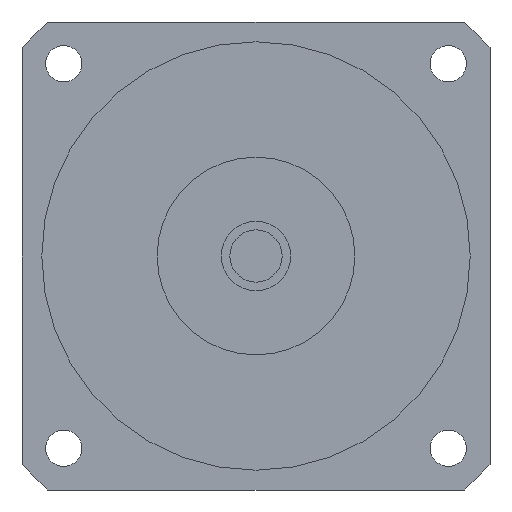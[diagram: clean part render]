
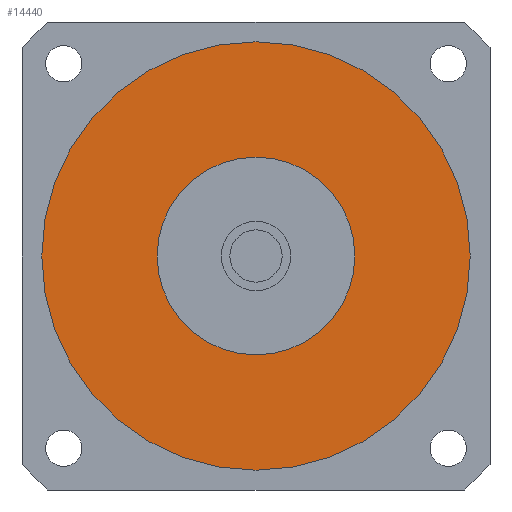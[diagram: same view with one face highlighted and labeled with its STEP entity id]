
A CAD part, left-side view. The second image highlights one B-rep face of the part: STEP entity #14440.
In plain terms, the highlighted planar face has unit normal (-1, 0, 0) as drawn and (0, 0, -1) by its records, which use the part's own axes.
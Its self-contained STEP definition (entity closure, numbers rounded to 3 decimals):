
#8930=CARTESIAN_POINT('',(30.,0.,-42.9));
#8940=VERTEX_POINT('',#8930);
#8970=CARTESIAN_POINT('',(0.,0.,
-42.9));
#8980=DIRECTION('',(0.,0.,1.));
#8990=DIRECTION('',(0.,1.,0.));
#9000=AXIS2_PLACEMENT_3D('',#8970,#8980,#8990);
#9010=CIRCLE('',#9000,30.);
#9020=CARTESIAN_POINT('',(0.,30.,-42.9));
#9030=VERTEX_POINT('',#9020);
#9040=EDGE_CURVE('',#8940,#9030,#9010,.T.);
#9060=CARTESIAN_POINT('',(-30.,0.,-42.9));
#9070=VERTEX_POINT('',#9060);
#9080=EDGE_CURVE('',#9030,#9070,#9010,.T.);
#13990=CARTESIAN_POINT('',(65.,0.,-42.9));
#14000=VERTEX_POINT('',#13990);
#14090=CARTESIAN_POINT('',(-65.,0.,-42.9));
#14100=VERTEX_POINT('',#14090);
#14130=CARTESIAN_POINT('',(0.,0.,
-42.9));
#14140=DIRECTION('',(0.,0.,1.));
#14150=DIRECTION('',(0.,1.,0.));
#14160=AXIS2_PLACEMENT_3D('',#14130,#14140,#14150);
#14170=CIRCLE('',#14160,65.);
#14180=CARTESIAN_POINT('',(0.,65.,-42.9));
#14190=VERTEX_POINT('',#14180);
#14200=EDGE_CURVE('',#14190,#14100,#14170,.T.);
#14220=EDGE_CURVE('',#14000,#14190,#14170,.T.);
#14270=CARTESIAN_POINT('',(0.,0.,
-42.9));
#14280=DIRECTION('',(0.,0.,1.));
#14290=DIRECTION('',(-1.,0.,0.));
#14300=AXIS2_PLACEMENT_3D('',#14270,#14280,#14290);
#14310=PLANE('',#14300);
#14320=ORIENTED_EDGE('',*,*,#14200,.F.);
#14330=EDGE_CURVE('',#14100,#14000,#14170,.T.);
#14340=ORIENTED_EDGE('',*,*,#14330,.F.);
#14350=ORIENTED_EDGE('',*,*,#14220,.F.);
#14360=EDGE_LOOP('',(#14350,#14340,#14320));
#14370=FACE_OUTER_BOUND('',#14360,.T.);
#14380=EDGE_CURVE('',#9070,#8940,#9010,.T.);
#14390=ORIENTED_EDGE('',*,*,#14380,.T.);
#14400=ORIENTED_EDGE('',*,*,#9080,.T.);
#14410=ORIENTED_EDGE('',*,*,#9040,.T.);
#14420=EDGE_LOOP('',(#14410,#14400,#14390));
#14430=FACE_BOUND('',#14420,.T.);
#14440=ADVANCED_FACE('',(#14370,#14430),#14310,.F.);
